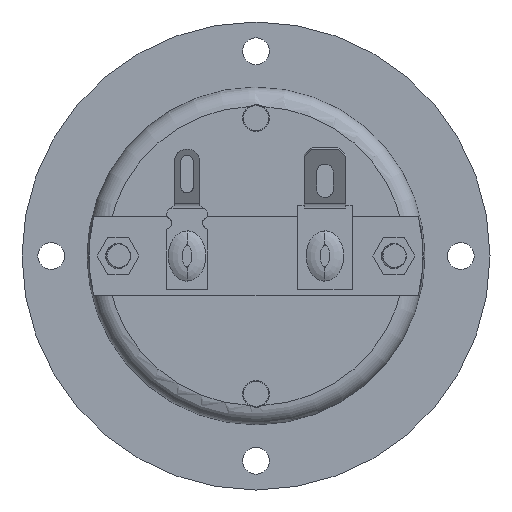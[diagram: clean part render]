
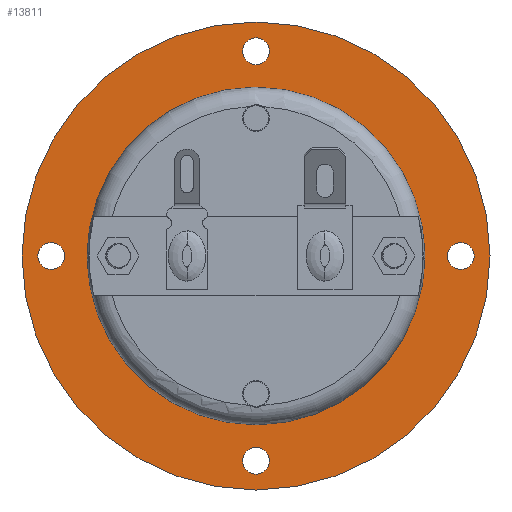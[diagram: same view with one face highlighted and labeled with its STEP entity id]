
A CAD part, front view. The second image highlights one B-rep face of the part: STEP entity #13811.
In plain terms, the highlighted planar face has unit normal (0, -1, 0).
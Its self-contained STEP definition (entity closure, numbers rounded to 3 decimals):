
#3386=FACE_BOUND('',#4199,.T.);
#3387=FACE_BOUND('',#4200,.T.);
#3388=FACE_BOUND('',#4201,.T.);
#3389=FACE_BOUND('',#4202,.T.);
#3390=FACE_BOUND('',#4203,.T.);
#3491=FACE_OUTER_BOUND('',#4198,.T.);
#4198=EDGE_LOOP('',(#9111));
#4199=EDGE_LOOP('',(#9112));
#4200=EDGE_LOOP('',(#9113));
#4201=EDGE_LOOP('',(#9114));
#4202=EDGE_LOOP('',(#9115));
#4203=EDGE_LOOP('',(#9116));
#5010=CIRCLE('',#14536,28.);
#5011=CIRCLE('',#14537,1.6);
#5012=CIRCLE('',#14538,1.6);
#5013=CIRCLE('',#14539,1.6);
#5014=CIRCLE('',#14540,1.6);
#5015=CIRCLE('',#14541,20.2);
#5473=VERTEX_POINT('',#19055);
#5474=VERTEX_POINT('',#19057);
#5475=VERTEX_POINT('',#19059);
#5476=VERTEX_POINT('',#19061);
#5477=VERTEX_POINT('',#19063);
#5478=VERTEX_POINT('',#19065);
#6900=EDGE_CURVE('',#5473,#5473,#5010,.T.);
#6901=EDGE_CURVE('',#5474,#5474,#5011,.T.);
#6902=EDGE_CURVE('',#5475,#5475,#5012,.T.);
#6903=EDGE_CURVE('',#5476,#5476,#5013,.T.);
#6904=EDGE_CURVE('',#5477,#5477,#5014,.T.);
#6905=EDGE_CURVE('',#5478,#5478,#5015,.T.);
#9111=ORIENTED_EDGE('',*,*,#6900,.F.);
#9112=ORIENTED_EDGE('',*,*,#6901,.F.);
#9113=ORIENTED_EDGE('',*,*,#6902,.F.);
#9114=ORIENTED_EDGE('',*,*,#6903,.F.);
#9115=ORIENTED_EDGE('',*,*,#6904,.F.);
#9116=ORIENTED_EDGE('',*,*,#6905,.F.);
#13533=PLANE('',#14535);
#13811=ADVANCED_FACE('',(#3491,#3386,#3387,#3388,#3389,#3390),#13533,.F.);
#14535=AXIS2_PLACEMENT_3D('',#19054,#15648,#15649);
#14536=AXIS2_PLACEMENT_3D('',#19056,#15650,#15651);
#14537=AXIS2_PLACEMENT_3D('',#19058,#15652,#15653);
#14538=AXIS2_PLACEMENT_3D('',#19060,#15654,#15655);
#14539=AXIS2_PLACEMENT_3D('',#19062,#15656,#15657);
#14540=AXIS2_PLACEMENT_3D('',#19064,#15658,#15659);
#14541=AXIS2_PLACEMENT_3D('',#19066,#15660,#15661);
#15648=DIRECTION('center_axis',(0.,1.,0.));
#15649=DIRECTION('ref_axis',(0.,0.,1.));
#15650=DIRECTION('center_axis',(0.,1.,0.));
#15651=DIRECTION('ref_axis',(0.,0.,1.));
#15652=DIRECTION('center_axis',(0.,-1.,0.));
#15653=DIRECTION('ref_axis',(0.,0.,1.));
#15654=DIRECTION('center_axis',(0.,-1.,0.));
#15655=DIRECTION('ref_axis',(0.,0.,1.));
#15656=DIRECTION('center_axis',(0.,-1.,0.));
#15657=DIRECTION('ref_axis',(0.,0.,1.));
#15658=DIRECTION('center_axis',(0.,-1.,0.));
#15659=DIRECTION('ref_axis',(0.,0.,1.));
#15660=DIRECTION('center_axis',(0.,-1.,0.));
#15661=DIRECTION('ref_axis',(0.,0.,-1.));
#19054=CARTESIAN_POINT('Origin',(0.,10.,0.));
#19055=CARTESIAN_POINT('',(0.,10.,-28.));
#19056=CARTESIAN_POINT('Origin',(0.,10.,0.));
#19057=CARTESIAN_POINT('',(0.,10.,-26.1));
#19058=CARTESIAN_POINT('Origin',(0.,10.,-24.5));
#19059=CARTESIAN_POINT('',(-24.5,10.,-1.6));
#19060=CARTESIAN_POINT('Origin',(-24.5,10.,0.));
#19061=CARTESIAN_POINT('',(0.,10.,22.9));
#19062=CARTESIAN_POINT('Origin',(0.,10.,24.5));
#19063=CARTESIAN_POINT('',(24.5,10.,-1.6));
#19064=CARTESIAN_POINT('Origin',(24.5,10.,0.));
#19065=CARTESIAN_POINT('',(0.,10.,20.2));
#19066=CARTESIAN_POINT('Origin',(0.,10.,0.));
